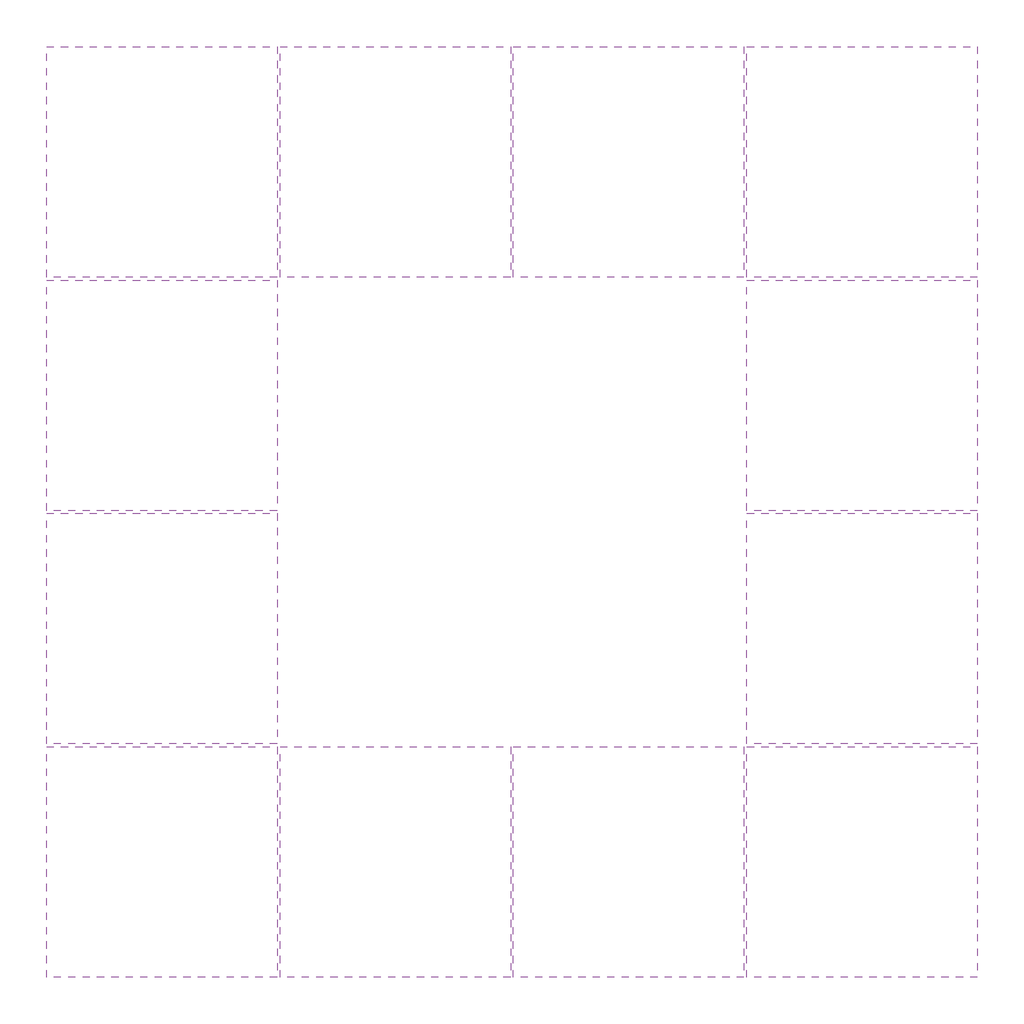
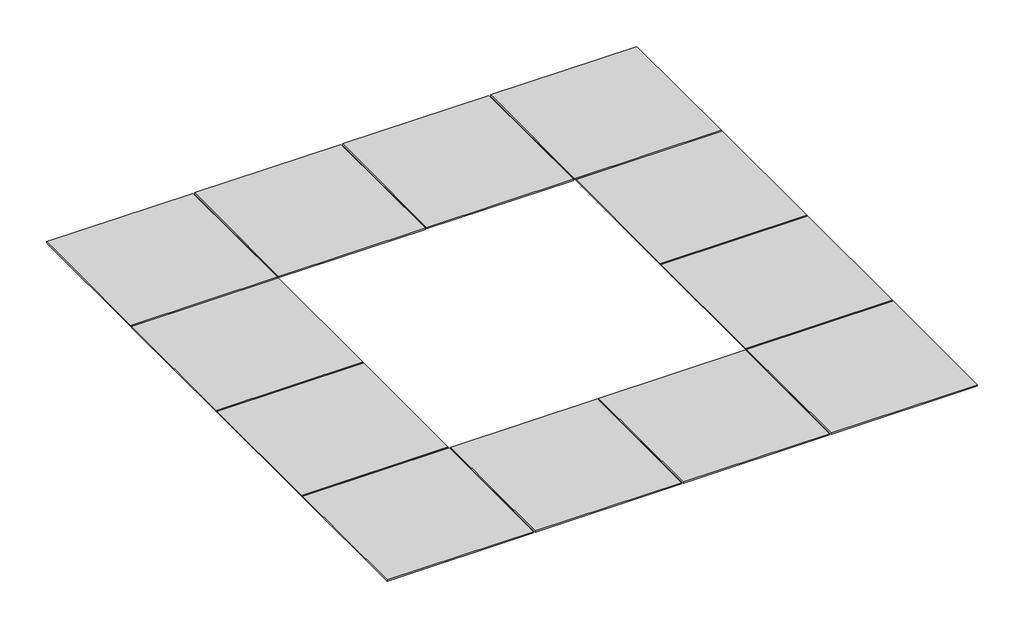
# One storey, incomplete: 12 plates.
"""IFC4 building model written with IfcOpenShell, lengths in millimetres."""

from ifc_helpers import new_model, si_unit, origin, place, context, project, spatial, transform, mapped, element, save
from components import plate_562299b5

model = new_model("IFC4")

# Units and contexts
model_context = context("Model", 3, world=origin())
ifc_project = project(units=[si_unit("LENGTHUNIT", "METRE", prefix="MILLI")], contexts=[model_context])

# Site, building, storey
site = spatial("IfcSite", under=ifc_project)
building = spatial("IfcBuilding", under=site)
storey = spatial("IfcBuildingStorey", under=building, Name="Level 02 - T.O. Footing", Elevation=-2743.2)

# Plates
placement = place(None, origin())
plate_shape = plate_562299b5(model_context)
element("IfcPlate", 1, ObjectType="Construction_Ceilings_Qwel-Tiles_Flat-Molded-Acoustic-Ceiling-Tiles : Flat Tile (Pure White)", at=placement, inside=storey, context=model_context, shape_type="MappedRepresentation", body=[
    mapped(plate_shape, transform((-3642.7701604, 16496.4465645, 6096.0), x_axis=(1.0, 0.0, 0.0), y_axis=(0.0, 0.0, -1.0), z_axis=(0.0, 1.0, 0.0))),
])
element("IfcPlate", 2, ObjectType="Construction_Ceilings_Qwel-Tiles_Flat-Molded-Acoustic-Ceiling-Tiles : Flat Tile (Pure White)", at=placement, inside=storey, context=model_context, shape_type="MappedRepresentation", body=[
    mapped(plate_shape, transform((-3033.1701602, 16496.4465645, 6096.0), x_axis=(1.0, 0.0, 0.0), y_axis=(0.0, 0.0, -1.0), z_axis=(0.0, 1.0, 0.0))),
])
element("IfcPlate", 3, ObjectType="Construction_Ceilings_Qwel-Tiles_Flat-Molded-Acoustic-Ceiling-Tiles : Flat Tile (Pure White)", at=placement, inside=storey, context=model_context, shape_type="MappedRepresentation", body=[
    mapped(plate_shape, transform((-2423.5701602, 16496.4465645, 6096.0), x_axis=(1.0, 0.0, 0.0), y_axis=(0.0, 0.0, -1.0), z_axis=(0.0, 1.0, 0.0))),
])
element("IfcPlate", 4, ObjectType="Construction_Ceilings_Qwel-Tiles_Flat-Molded-Acoustic-Ceiling-Tiles : Flat Tile (Pure White)", at=placement, inside=storey, context=model_context, shape_type="MappedRepresentation", body=[
    mapped(plate_shape, transform((-1813.9701604, 16496.4465645, 6096.0), x_axis=(1.0, 0.0, 0.0), y_axis=(0.0, 0.0, -1.0), z_axis=(0.0, 1.0, 0.0))),
])
element("IfcPlate", 5, ObjectType="Construction_Ceilings_Qwel-Tiles_Flat-Molded-Acoustic-Ceiling-Tiles : Flat Tile (Pure White)", at=placement, inside=storey, context=model_context, shape_type="MappedRepresentation", body=[
    mapped(plate_shape, transform((-3642.7701604, 17106.0465645, 6096.0), x_axis=(1.0, 0.0, 0.0), y_axis=(0.0, 0.0, -1.0), z_axis=(0.0, 1.0, 0.0))),
])
element("IfcPlate", 6, ObjectType="Construction_Ceilings_Qwel-Tiles_Flat-Molded-Acoustic-Ceiling-Tiles : Flat Tile (Pure White)", at=placement, inside=storey, context=model_context, shape_type="MappedRepresentation", body=[
    mapped(plate_shape, transform((-1813.9701604, 17106.0465645, 6096.0), x_axis=(1.0, 0.0, 0.0), y_axis=(0.0, 0.0, -1.0), z_axis=(0.0, 1.0, 0.0))),
])
element("IfcPlate", 7, ObjectType="Construction_Ceilings_Qwel-Tiles_Flat-Molded-Acoustic-Ceiling-Tiles : Flat Tile (Pure White)", at=placement, inside=storey, context=model_context, shape_type="MappedRepresentation", body=[
    mapped(plate_shape, transform((-3642.7701604, 17715.6465645, 6096.0), x_axis=(1.0, 0.0, 0.0), y_axis=(0.0, 0.0, -1.0), z_axis=(0.0, 1.0, 0.0))),
])
element("IfcPlate", 8, ObjectType="Construction_Ceilings_Qwel-Tiles_Flat-Molded-Acoustic-Ceiling-Tiles : Flat Tile (Pure White)", at=placement, inside=storey, context=model_context, shape_type="MappedRepresentation", body=[
    mapped(plate_shape, transform((-1813.9701604, 17715.6465645, 6096.0), x_axis=(1.0, 0.0, 0.0), y_axis=(0.0, 0.0, -1.0), z_axis=(0.0, 1.0, 0.0))),
])
element("IfcPlate", 9, ObjectType="Construction_Ceilings_Qwel-Tiles_Flat-Molded-Acoustic-Ceiling-Tiles : Flat Tile (Pure White)", at=placement, inside=storey, context=model_context, shape_type="MappedRepresentation", body=[
    mapped(plate_shape, transform((-3642.7701604, 18325.2465645, 6096.0), x_axis=(1.0, 0.0, 0.0), y_axis=(0.0, 0.0, -1.0), z_axis=(0.0, 1.0, 0.0))),
])
element("IfcPlate", 10, ObjectType="Construction_Ceilings_Qwel-Tiles_Flat-Molded-Acoustic-Ceiling-Tiles : Flat Tile (Pure White)", at=placement, inside=storey, context=model_context, shape_type="MappedRepresentation", body=[
    mapped(plate_shape, transform((-3033.1701602, 18325.2465645, 6096.0), x_axis=(1.0, 0.0, 0.0), y_axis=(0.0, 0.0, -1.0), z_axis=(0.0, 1.0, 0.0))),
])
element("IfcPlate", 11, ObjectType="Construction_Ceilings_Qwel-Tiles_Flat-Molded-Acoustic-Ceiling-Tiles : Flat Tile (Pure White)", at=placement, inside=storey, context=model_context, shape_type="MappedRepresentation", body=[
    mapped(plate_shape, transform((-2423.5701602, 18325.2465645, 6096.0), x_axis=(1.0, 0.0, 0.0), y_axis=(0.0, 0.0, -1.0), z_axis=(0.0, 1.0, 0.0))),
])
element("IfcPlate", 12, ObjectType="Construction_Ceilings_Qwel-Tiles_Flat-Molded-Acoustic-Ceiling-Tiles : Flat Tile (Pure White)", at=placement, inside=storey, context=model_context, shape_type="MappedRepresentation", body=[
    mapped(plate_shape, transform((-1813.9701604, 18325.2465645, 6096.0), x_axis=(1.0, 0.0, 0.0), y_axis=(0.0, 0.0, -1.0), z_axis=(0.0, 1.0, 0.0))),
])

save(model, "model.ifc")
